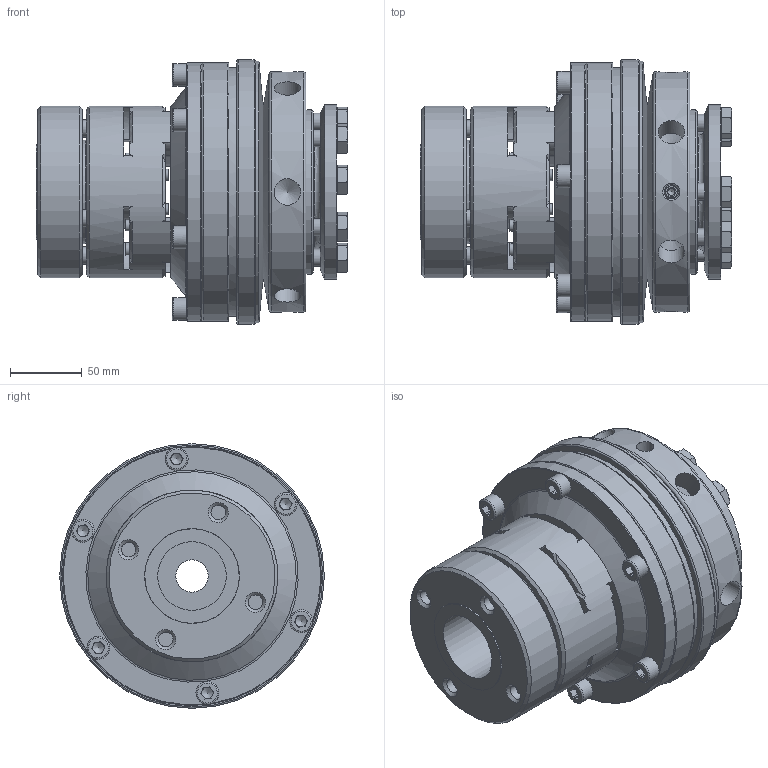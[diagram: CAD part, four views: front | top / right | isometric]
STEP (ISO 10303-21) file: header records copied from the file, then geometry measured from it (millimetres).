
FILE_DESCRIPTION( ( 'Unknown' ), '1' );
FILE_NAME( 'F:/JAKOB-STEP+IGES-Dateien/STEP-Dateien/SKY-ES/SKY-ES 1000.stp', 'Unknown', ( 'Unknown' ), ( 'Unknown' ), 'PSStep 10.1', 'Unknown', ' ' );
FILE_SCHEMA( ( 'AUTOMOTIVE_DESIGN { 1 0 10303 214 1 1 1 1 }' ) );
Length unit declared in the file: millimetre
Products named in the file (1): 27920601
Bounding box: 217.5 x 185 x 185 mm (x, y, z)
Volume: 2491906.9 mm3; surface area: 422893.8 mm2
Topology: 1 solids, 17 shells, 809 faces, 2270 edges, 1466 vertices
Faces by surface type: plane 303, cylinder 183, cone 167, torus 112, sphere 32, bspline 12
Full cylindrical faces by diameter (mm): 6.8 x1, 8 x8, 8.5 x2, 10 x7, 10.2 x17, 10.5 x6, 12 x12, 12.5 x10, 16 x6, 17.2 x6, 18 x4, 18.5 x6, 19 x4, 22.5 x1, 40 x1, 48 x1, 58 x2, 72 x1, 72.4 x1, 73 x1, 74 x1, 79.35 x1, 100 x1, 107.7 x1, 109.8 x1, 110 x2, 115 x2, 116 x1, 117 x1, 120 x4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
Entity records: 34766 total; most frequent: CARTESIAN_POINT 9981, DIRECTION 3716, ORIENTED_EDGE 3566, EDGE_CURVE 1783, AXIS2_PLACEMENT_3D 1638, VERTEX_POINT 1273, EDGE_LOOP 1204, FACE_OUTER_BOUND 951
